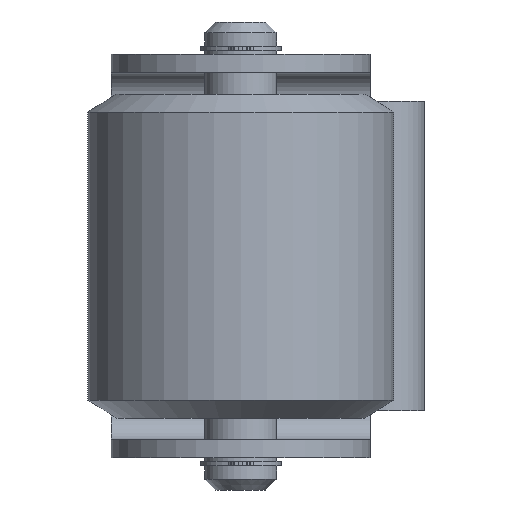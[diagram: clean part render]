
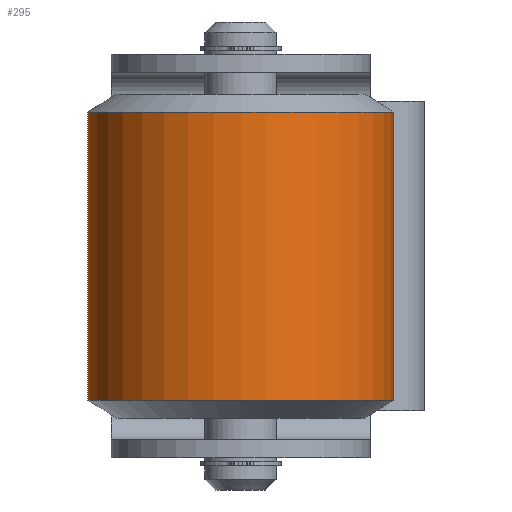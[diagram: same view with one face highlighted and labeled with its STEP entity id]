
A CAD part, front view. The second image highlights one B-rep face of the part: STEP entity #295.
In plain terms, the highlighted cylindrical face has radius 42.5 mm (diameter 85 mm), a full revolution.
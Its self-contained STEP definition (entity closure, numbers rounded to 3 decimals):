
#168=CYLINDRICAL_SURFACE('',#1647,42.5);
#295=ADVANCED_FACE('',(#397,#398),#168,.T.);
#397=FACE_BOUND('',#513,.T.);
#398=FACE_BOUND('',#514,.T.);
#513=EDGE_LOOP('',(#955));
#514=EDGE_LOOP('',(#956));
#593=CIRCLE('',#1645,42.5);
#594=CIRCLE('',#1646,42.5);
#955=ORIENTED_EDGE('',*,*,#1275,.T.);
#956=ORIENTED_EDGE('',*,*,#1276,.T.);
#1091=VERTEX_POINT('',#2471);
#1092=VERTEX_POINT('',#2473);
#1275=EDGE_CURVE('',#1091,#1091,#593,.T.);
#1276=EDGE_CURVE('',#1092,#1092,#594,.T.);
#1645=AXIS2_PLACEMENT_3D('',#2470,#2062,#2063);
#1646=AXIS2_PLACEMENT_3D('',#2472,#2064,#2065);
#1647=AXIS2_PLACEMENT_3D('',#2474,#2066,#2067);
#2062=DIRECTION('',(0.,-1.,0.));
#2063=DIRECTION('',(0.,0.,1.));
#2064=DIRECTION('',(0.,1.,0.));
#2065=DIRECTION('',(0.,0.,-1.));
#2066=DIRECTION('',(0.,1.,0.));
#2067=DIRECTION('',(1.,0.,0.));
#2470=CARTESIAN_POINT('',(0.,85.,0.));
#2471=CARTESIAN_POINT('',(0.,85.,42.5));
#2472=CARTESIAN_POINT('',(0.,5.,0.));
#2473=CARTESIAN_POINT('',(0.,5.,-42.5));
#2474=CARTESIAN_POINT('',(0.,0.,0.));
